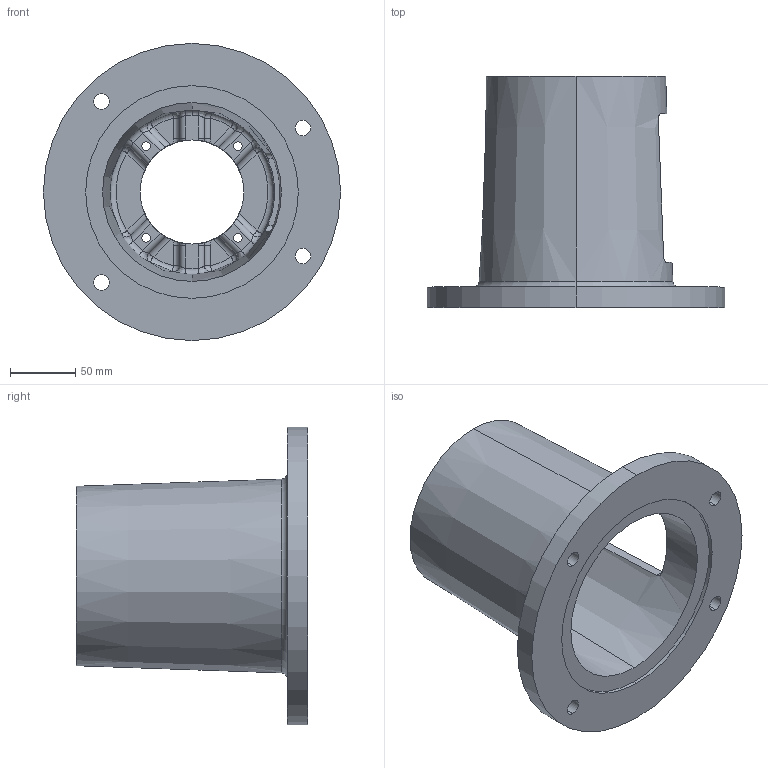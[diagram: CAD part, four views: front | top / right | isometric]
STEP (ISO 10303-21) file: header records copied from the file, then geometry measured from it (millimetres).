
FILE_DESCRIPTION (( 'STEP AP203' ), '1' );
FILE_NAME ('E7007080MS.STEP', '2014-11-04T13:27:00', ( '' ), ( '' ), 'SwSTEP 2.0', 'SolidWorks 2014', '' );
FILE_SCHEMA (( 'CONFIG_CONTROL_DESIGN' ));
Length unit declared in the file: inch
Products named in the file (1): E7007080MS
Bounding box: 228.6 x 177.8 x 228.6 mm (x, y, z)
Volume: 869511 mm3; surface area: 215837.9 mm2
Topology: 1 solids, 1 shells, 149 faces, 376 edges, 219 vertices
Faces by surface type: cylinder 54, plane 32, bspline 24, torus 23, sphere 12, cone 4
Entity records: 6385 total; most frequent: CARTESIAN_POINT 2891, ORIENTED_EDGE 728, DIRECTION 714, EDGE_CURVE 364, AXIS2_PLACEMENT_3D 308, VERTEX_POINT 219, CIRCLE 182, EDGE_LOOP 171
